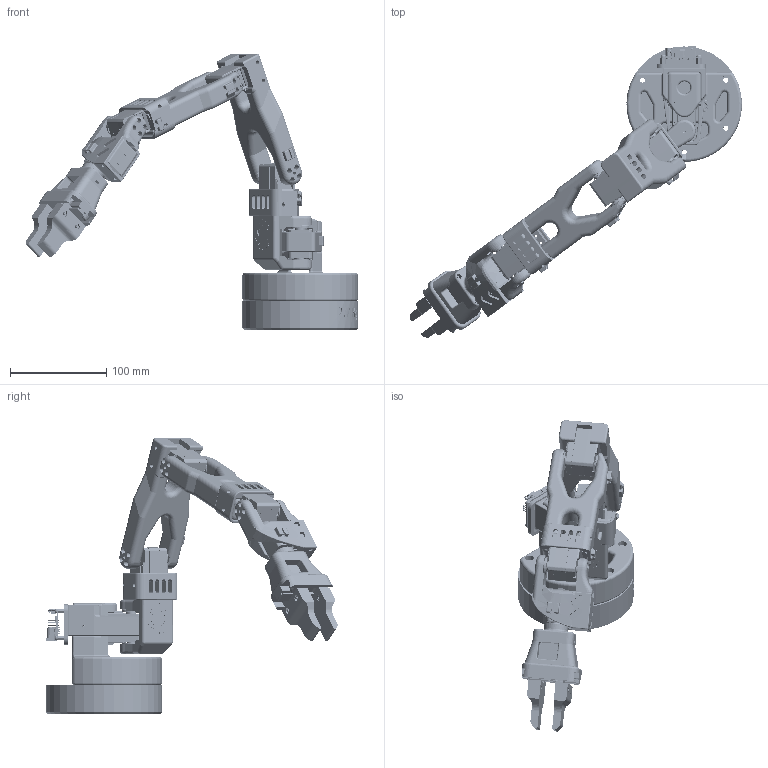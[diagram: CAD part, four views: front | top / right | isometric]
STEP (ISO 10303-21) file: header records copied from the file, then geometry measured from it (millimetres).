
FILE_DESCRIPTION(/* description */ (''),/* implementation_level */ '2;1');
FILE_NAME(/* name */ 'SO101 Assembl v3.stp',/* time_stamp */ '2025-06-24T13:09:01+02:00',/* author */ ('R5800u'),/* organization */ (''),/* preprocessor_version */ 'ST-DEVELOPER v20',/* originating_system */ 'Autodesk Inventor 2025',/* authorisation */ '');
FILE_SCHEMA (('AUTOMOTIVE_DESIGN { 1 0 10303 214 3 1 1 }'));
Length unit declared in the file: millimetre
Products named in the file (208): SO101 Assembl v3y; Base_SO101 v13; Rotation_Pitch_SO101; Upper_arm_SO101; Parte6; Under_arm_SO101; Parte8; Base_08p; Motor_holder_SO101_Base; Parte12; Motor_holder_SO101_Wrist; Parte14; Wrist_Roll_Pitch_SO100; Parte16; CRFHTSTATI ANSI B18.6.4 - 1-42 x 3/16 Steel Grade 2 Plain; PCB; Board; C1; C2; C3; C4; C5; C7; C_0603; C_0603-7177_AF0_ASM; C_0603-683_AF0_ASM; C6; D2; DC1; dc-005-5a-20; H1; User_Library-DG350-3,5-02P; H3; H5; X2564WV-03-N0SN; R2; R0603; R_0603-3615_AF0_ASM; R_0603-3601_AF0_ASM; R3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
Assembly tree (317 placements, depth 7):
  SO101 Assembl v3y
    Base_SO101 v13
    Rotation_Pitch_SO101
    Upper_arm_SO101
      Parte6
    Under_arm_SO101
      Parte8
    Base_08p
    Motor_holder_SO101_Base
      Parte12
    Motor_holder_SO101_Wrist
      Parte14
    Wrist_Roll_Pitch_SO100
      Parte16
    CRFHTSTATI ANSI B18.6.4 - 1-42 x 3/16 Steel Grade 2 Plain  x4
    PCB
      Board
      C1
        User_Library-0603_SMD_Capacitor
      C2
        User_Library-0603_SMD_Capacitor
      C3
        User_Library-0603_SMD_Capacitor
      C4
        User_Library-0603_SMD_Capacitor
      C5
        User_Library-0603_SMD_Capacitor
      C7
        C_0603
          C_0603-7177_AF0_ASM
            C_0603-683_AF0_ASM
              2_1_200
              _1_1_20001
              3_1_2_A
      C6
        User_Library-0603_SMD_Capacitor
      D2
        SOD323
      DC1
        dc-005-5a-20
      H1
        User_Library-DG350-3,5-02P
      H3
        X2564WV-03-N0SN
      H5
        X2564WV-03-N0SN
      R2
        R0603
          R_0603-3615_AF0_ASM
            R_0603-3601_AF0_ASM
              _2_1_2_3_4_AF0
              _7_1_2_AF0
              5_1_2_3_400
      R3
        R0603_1
          R_0603-3615_AF0_ASM_1
            R_0603-3601_AF0_ASM_1
              _2_1_2_3_4_AF0
              _7_1_2_AF0
              5_1_2_3_400
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Bounding box: 344.77 x 302.99 x 287.33 mm (x, y, z)
Volume: 1278491.9 mm3; surface area: 368118.7 mm2
Topology: 203 solids, 266 shells, 22270 faces, 61394 edges, 40477 vertices
Faces by surface type: plane 13865, cylinder 4623, bspline 2800, torus 375, cone 365, sphere 242
Full cylindrical faces by diameter (mm): 0.08 x1, 0.4 x1, 0.5 x2, 0.7 x12, 0.762 x2, 0.8 x2, 0.82 x6, 0.889 x11, 1 x14, 1.03 x6, 1.167 x3, 1.2 x5, 1.5 x7, 1.6 x60, 1.755 x1, 1.829 x4, 2 x17, 2.2 x36, 2.256 x4, 2.43 x4, 2.47 x1, 2.5 x171, 2.6 x5, 2.7 x5, 2.8 x2, 2.997 x4, 3 x10, 3.2 x34, 3.5 x16, 4 x8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
Entity records: 438804 total; most frequent: CARTESIAN_POINT 148470, ORIENTED_EDGE 61627, DIRECTION 55371, EDGE_CURVE 30814, LINE 23013, VECTOR 23013, VERTEX_POINT 20302, AXIS2_PLACEMENT_3D 16179
